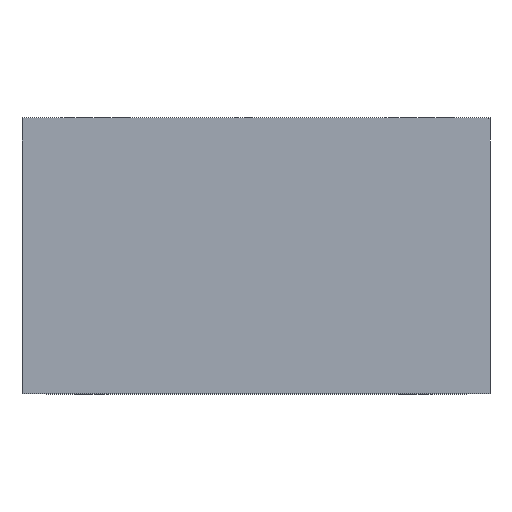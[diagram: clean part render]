
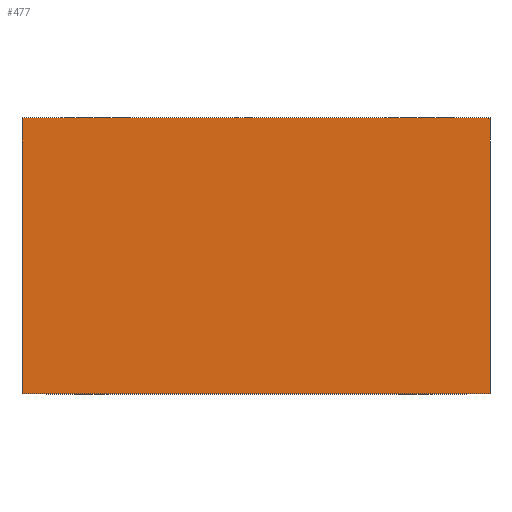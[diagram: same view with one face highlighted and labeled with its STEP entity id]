
A CAD part, top view. The second image highlights one B-rep face of the part: STEP entity #477.
In plain terms, the highlighted planar face has unit normal (0, 0, 1).
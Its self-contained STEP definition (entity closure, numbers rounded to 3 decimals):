
#38=LINE('',#723,#94);
#44=LINE('',#734,#100);
#49=LINE('',#749,#105);
#55=LINE('',#764,#111);
#94=VECTOR('',#586,10.);
#100=VECTOR('',#594,10.);
#105=VECTOR('',#607,10.);
#111=VECTOR('',#619,10.);
#151=FACE_OUTER_BOUND('',#185,.T.);
#185=EDGE_LOOP('',(#381,#382,#383,#384));
#223=VERTEX_POINT('',#716);
#226=VERTEX_POINT('',#721);
#230=VERTEX_POINT('',#732);
#236=VERTEX_POINT('',#748);
#270=EDGE_CURVE('',#226,#223,#38,.T.);
#276=EDGE_CURVE('',#226,#230,#44,.T.);
#283=EDGE_CURVE('',#223,#236,#49,.T.);
#291=EDGE_CURVE('',#230,#236,#55,.T.);
#381=ORIENTED_EDGE('',*,*,#270,.F.);
#382=ORIENTED_EDGE('',*,*,#276,.T.);
#383=ORIENTED_EDGE('',*,*,#291,.T.);
#384=ORIENTED_EDGE('',*,*,#283,.F.);
#453=PLANE('',#527);
#477=ADVANCED_FACE('',(#151),#453,.T.);
#527=AXIS2_PLACEMENT_3D('',#774,#629,#630);
#586=DIRECTION('',(0.,1.,0.));
#594=DIRECTION('',(1.,0.,0.));
#607=DIRECTION('',(1.,0.,0.));
#619=DIRECTION('',(0.,1.,0.));
#629=DIRECTION('center_axis',(0.,0.,1.));
#630=DIRECTION('ref_axis',(-1.,0.,0.));
#716=CARTESIAN_POINT('',(-19.5,40.,10.));
#721=CARTESIAN_POINT('',(-19.5,17.,10.));
#723=CARTESIAN_POINT('',(-19.5,15.,10.));
#732=CARTESIAN_POINT('',(19.5,17.,10.));
#734=CARTESIAN_POINT('',(25.,17.,10.));
#748=CARTESIAN_POINT('',(19.5,40.,10.));
#749=CARTESIAN_POINT('',(-25.,40.,10.));
#764=CARTESIAN_POINT('',(19.5,38.,10.));
#774=CARTESIAN_POINT('Origin',(25.,40.,10.));
